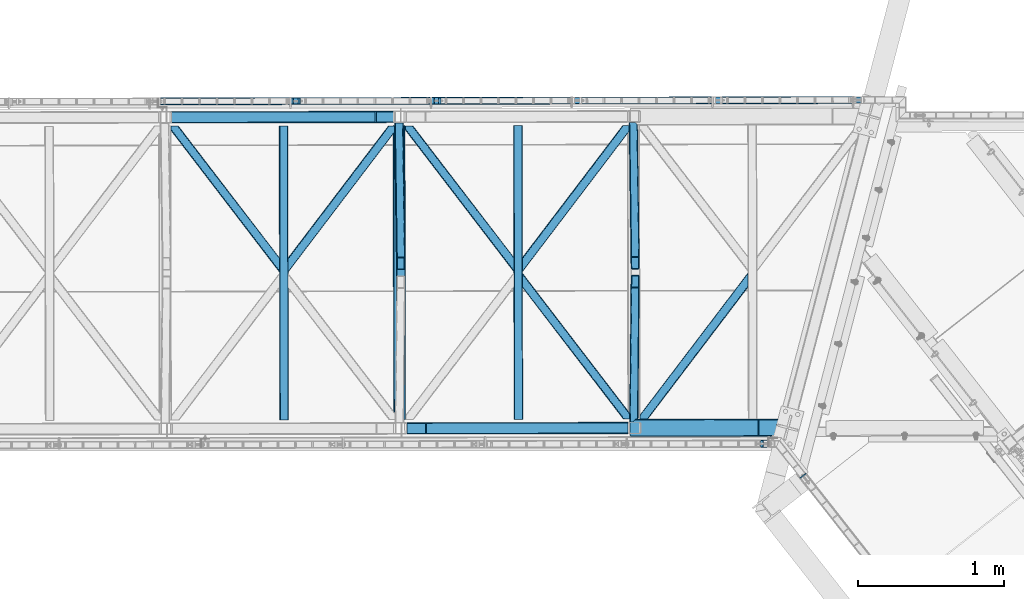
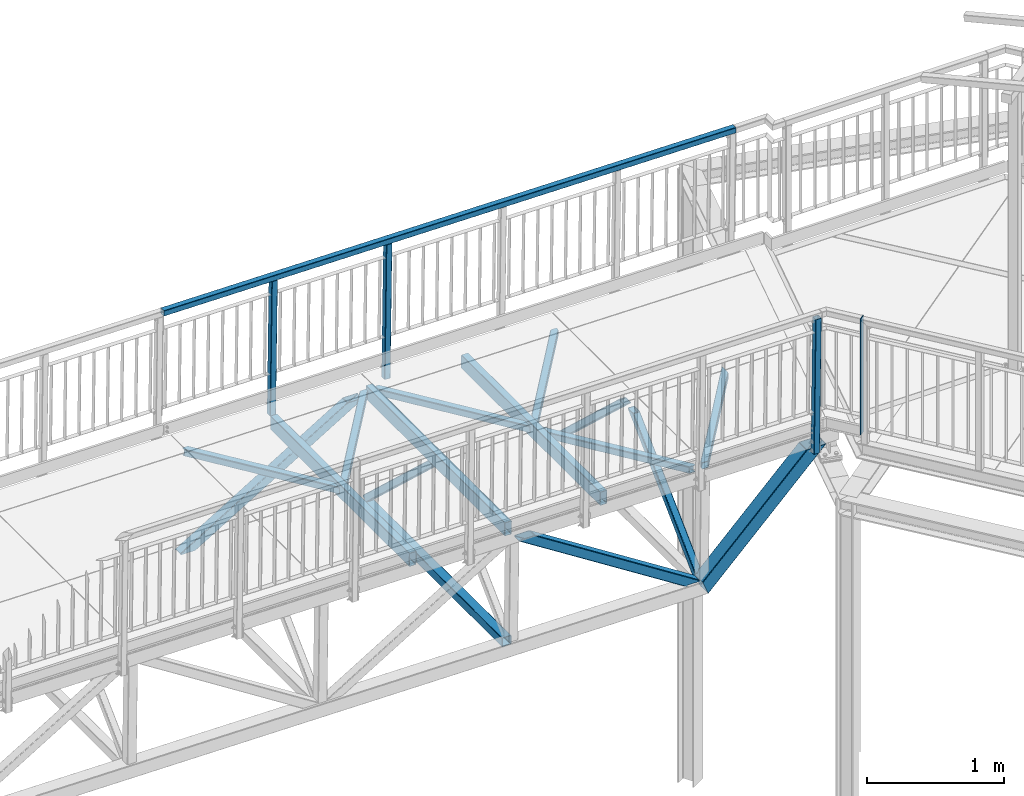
# One storey, part 61 of 169: 21 discrete accessories, 4 elements without a shape of their own.
"""IFC2X3 building model written with IfcOpenShell, lengths in millimetres."""

from ifc_helpers import new_model, si_unit, frame, origin_with_axes, origin_2d_with_axis, place, context, subcontext, project, spatial, polyline, rectangle, hollow_rectangle, outline, extrude, boolean, clip, halfspace, material, type_object, element, aggregate, save


model = new_model("IFC2X3")

# Units and contexts
model_context = context("Model", 3, precision=1e-05, world=origin_with_axes())
body_context = subcontext(model_context, "Body", "Model", "MODEL_VIEW")
ifc_project = project(units=[si_unit("LENGTHUNIT", "METRE", prefix="MILLI"), si_unit("AREAUNIT", "SQUARE_METRE"), si_unit("VOLUMEUNIT", "CUBIC_METRE"), si_unit("MASSUNIT", "GRAM", prefix="KILO"), si_unit("TIMEUNIT", "SECOND"), si_unit("PLANEANGLEUNIT", "RADIAN"), si_unit("SOLIDANGLEUNIT", "STERADIAN"), si_unit("THERMODYNAMICTEMPERATUREUNIT", "DEGREE_CELSIUS"), si_unit("LUMINOUSINTENSITYUNIT", "LUMEN")], contexts=[model_context])

# Site, building, storey
site_placement = place(None, origin_with_axes())
site = spatial("IfcSite", under=ifc_project, at=site_placement, Name="Undefined", CompositionType="ELEMENT")
building_placement = place(site_placement, origin_with_axes())
building = spatial("IfcBuilding", under=site, at=building_placement, Name="Undefined", CompositionType="ELEMENT")
storey_placement = place(building_placement, origin_with_axes())
storey = spatial("IfcBuildingStorey", under=building, at=storey_placement, Name="Undefined", CompositionType="ELEMENT", Elevation=0.0)

# Assembly, discrete accessory
assembly_1_placement = place(storey_placement, origin_with_axes())
assembly_1 = element("IfcElementAssembly", 1, at=assembly_1_placement, inside=storey, Name="Steel Assembly", AssemblyPlace="NOTDEFINED", PredefinedType="RIGID_FRAME")
ifc_material_1 = material(Name="STEEL/S235")
discrete_accessory_type_1 = type_object("IfcDiscreteAccessoryType", Name="BLACHA")
discrete_accessory_1_placement = place(assembly_1_placement, frame((18521.8600621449, -206.542607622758, 13868.4308895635), z_axis=(0.617242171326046, -0.786773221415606, 1.36000016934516e-07), x_axis=(0.786773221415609, 0.617242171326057, 0.0)))
discrete_accessory_1 = element("IfcDiscreteAccessory", 2, at=discrete_accessory_1_placement, type_object=discrete_accessory_type_1, material=ifc_material_1, Name="BLACHA", ObjectType="BL5*50", context=body_context, shape_type="SweptSolid", body=[
    extrude(outline(polyline([(0.0, 0.0), (50.0000000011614, 3.27418092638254e-11), (50.0000000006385, 1038.00000000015), (1.76047251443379e-07, 1038.00000000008), (0.0, 0.0)])), frame((6.80888809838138e-19, -2.87858853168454e-21, -2.49999999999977), z_axis=(0.0, 0.0, 1.0), x_axis=(1.0, 0.0, 0.0)), (0.0, 0.0, 1.0), 5.0),
])

assembly_2_placement = place(storey_placement, origin_with_axes())
assembly_2 = element("IfcElementAssembly", 3, at=assembly_2_placement, inside=storey, Name="Steel Assembly", AssemblyPlace="NOTDEFINED", PredefinedType="RIGID_FRAME")
ifc_material_2 = material(Name="STEEL/S355")
discrete_accessory_type_2 = type_object("IfcDiscreteAccessoryType", Name="BEAM")
discrete_accessory_2_placement = place(assembly_2_placement, frame((17391.8988226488, 137.447571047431, 13733.1483192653), z_axis=(0.796064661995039, -0.605127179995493, -0.0101069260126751), x_axis=(0.605078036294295, 0.796128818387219, -0.00771197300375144)))
discrete_accessory_2 = element("IfcDiscreteAccessory", 4, at=discrete_accessory_2_placement, type_object=discrete_accessory_type_2, material=ifc_material_2, Name="BEAM", ObjectType="K60/4", context=body_context, shape_type="CSG", body=[
    boolean("DIFFERENCE", boolean("DIFFERENCE", boolean("DIFFERENCE", extrude(hollow_rectangle(XDim=60.0, YDim=60.0, WallThickness=4.0, InnerFilletRadius=4.0, OuterFilletRadius=8.0, at=origin_2d_with_axis()), frame((1317.88045895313, 1.14307908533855e-15, -1.87685778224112e-12), z_axis=(-1.0, -3.46944695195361e-18, -1.38777878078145e-17), x_axis=(1.73472347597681e-18, -1.0, 0.0)), (0.0, 0.0, 1.0), 1317.88), extrude(rectangle(XDim=122.0, YDim=122.0, at=origin_2d_with_axis()), frame((1232.02617983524, 0.000108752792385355, 1614.64314702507), z_axis=(-0.606610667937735, 2.83045446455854e-10, -0.794999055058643), x_axis=(1.73472347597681e-18, -1.0, 0.0)), (0.0, 0.0, 1.0), 4062.0)), extrude(rectangle(XDim=62.0, YDim=122.0, at=origin_2d_with_axis()), frame((1638.49296551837, -1.93246750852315e-06, -1250.22451956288), z_axis=(-0.794999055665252, -4.2238609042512e-08, 0.606610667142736), x_axis=(0.606610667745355, -4.65838344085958e-10, 0.794999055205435)), (0.0, 0.0, 1.0), 4122.0)), halfspace(frame((513.848229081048, 1.26783561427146e-08, 582.760696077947), z_axis=(-0.606610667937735, 2.83045446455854e-10, -0.794999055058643), x_axis=(1.73472347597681e-18, -1.0, 0.0)), True)),
])

# Assembly, discrete accessories
assembly_3_placement = place(storey_placement, origin_with_axes())
assembly_3 = element("IfcElementAssembly", 5, at=assembly_3_placement, inside=storey, Name="Steel Assembly", AssemblyPlace="NOTDEFINED", PredefinedType="RIGID_FRAME")
discrete_accessory_3_placement = place(assembly_3_placement, frame((15782.031694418, 134.445301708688, 13753.6165103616), z_axis=(0.538381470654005, 0.00100403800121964, 0.842700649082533), x_axis=(0.842699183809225, 0.00157148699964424, -0.538382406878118)))
discrete_accessory_3 = element("IfcDiscreteAccessory", 6, at=discrete_accessory_3_placement, type_object=discrete_accessory_type_2, material=ifc_material_2, Name="BEAM", ObjectType="K80/4", context=body_context, shape_type="CSG", body=[
    boolean("DIFFERENCE", boolean("DIFFERENCE", boolean("DIFFERENCE", boolean("DIFFERENCE", boolean("DIFFERENCE", extrude(hollow_rectangle(XDim=80.0, YDim=80.0, WallThickness=4.0, InnerFilletRadius=4.0, OuterFilletRadius=8.0, at=origin_2d_with_axis()), frame((1895.28365458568, 2.8368149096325e-14, 0.0), z_axis=(-1.0, -3.46944695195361e-18, -1.38777878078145e-17), x_axis=(1.73472347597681e-18, -1.0, 0.0)), (0.0, 0.0, 1.0), 1895.28), extrude(rectangle(XDim=82.0, YDim=82.0, at=origin_2d_with_axis()), frame((1817.67638400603, -4.77197151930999e-07, 124.947708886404), z_axis=(0.527625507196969, -3.47074672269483e-10, -0.849477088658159), x_axis=(1.73472347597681e-18, -1.0, 0.0)), (0.0, 0.0, 1.0), 294.18)), extrude(rectangle(XDim=122.0, YDim=122.0, at=origin_2d_with_axis()), frame((2015.05956704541, -4.63874121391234e-06, 74.3951035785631), z_axis=(-0.849477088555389, 2.61340201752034e-10, -0.527625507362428), x_axis=(0.527625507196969, -3.47074672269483e-10, -0.849477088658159)), (0.0, 0.0, 1.0), 282.0)), extrude(rectangle(XDim=122.0, YDim=122.0, at=origin_2d_with_axis()), frame((1733.78268027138, -4.16628931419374e-06, 1076.88375380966), z_axis=(-0.849477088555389, 2.61340201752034e-10, -0.527625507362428), x_axis=(0.527625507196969, -3.47074672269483e-10, -0.849477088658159)), (0.0, 0.0, 1.0), 4082.0)), extrude(rectangle(XDim=82.0, YDim=82.0, at=origin_2d_with_axis()), frame((-1078.99478598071, 3.71883953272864e-07, 1737.1816513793), z_axis=(0.527625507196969, -3.47074672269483e-10, -0.849477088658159), x_axis=(1.73472347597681e-18, -1.0, 0.0)), (0.0, 0.0, 1.0), 4090.0)), halfspace(frame((1895.28365458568, 2.8368149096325e-14, 0.0), z_axis=(-0.849477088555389, 2.61340201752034e-10, -0.527625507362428), x_axis=(0.0, 1.0, 0.0)), True)),
])
discrete_accessory_4_placement = place(assembly_3_placement, frame((14155.4606473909, 2271.41576976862, 12774.1654243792), z_axis=(-0.516782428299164, -0.000963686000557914, 0.856116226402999), x_axis=(0.856114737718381, 0.00159654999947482, 0.516783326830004)))
discrete_accessory_4 = element("IfcDiscreteAccessory", 7, at=discrete_accessory_4_placement, type_object=discrete_accessory_type_2, material=ifc_material_2, Name="BEAM", ObjectType="K80/4", context=body_context, shape_type="CSG", body=[
    boolean("DIFFERENCE", boolean("DIFFERENCE", boolean("DIFFERENCE", boolean("DIFFERENCE", extrude(hollow_rectangle(XDim=80.0, YDim=80.0, WallThickness=4.0, InnerFilletRadius=4.0, OuterFilletRadius=8.0, at=origin_2d_with_axis()), frame((1895.28365458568, 2.8368149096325e-14, 0.0), z_axis=(-1.0, -3.46944695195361e-18, -1.38777878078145e-17), x_axis=(1.73472347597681e-18, -1.0, 0.0)), (0.0, 0.0, 1.0), 1895.28), extrude(rectangle(XDim=122.0, YDim=122.0, at=origin_2d_with_axis()), frame((3629.06675549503, -0.000113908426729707, -1076.88375412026), z_axis=(-0.849477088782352, -3.93457825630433e-11, 0.527625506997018), x_axis=(0.527625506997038, -2.13486959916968e-10, 0.849477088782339)), (0.0, 0.0, 1.0), 4082.0)), extrude(rectangle(XDim=82.0, YDim=82.0, at=origin_2d_with_axis()), frame((2982.71976667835, -3.53661638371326e-07, 1750.77218569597), z_axis=(-0.527625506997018, 2.00772915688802e-10, -0.849477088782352), x_axis=(1.73472347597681e-18, -1.0, 0.0)), (0.0, 0.0, 1.0), 4122.0)), extrude(rectangle(XDim=82.0, YDim=82.0, at=origin_2d_with_axis()), frame((1087.43622890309, -6.76905148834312e-07, 1750.7723728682), z_axis=(-0.527625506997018, 2.00772915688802e-10, -0.849477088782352), x_axis=(1.73472347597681e-18, -1.0, 0.0)), (0.0, 0.0, 1.0), 4122.0)), extrude(rectangle(XDim=122.0, YDim=122.0, at=origin_2d_with_axis()), frame((1733.61000419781, -2.8444828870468e-06, -1076.7762420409), z_axis=(-0.849477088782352, -3.93457825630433e-11, 0.527625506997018), x_axis=(-0.527625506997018, 2.00772915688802e-10, -0.849477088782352)), (0.0, 0.0, 1.0), 4081.59)),
])
aggregate(assembly_3, [discrete_accessory_3, discrete_accessory_4])

# Discrete accessory
discrete_accessory_5_placement = place(assembly_2_placement, frame((16584.9978418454, 1190.94465436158, 13743.3823690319), z_axis=(-0.793802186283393, -0.608092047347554, 0.0101069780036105), x_axis=(0.608043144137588, -0.793866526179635, -0.00771190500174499)))
discrete_accessory_5 = element("IfcDiscreteAccessory", 8, at=discrete_accessory_5_placement, type_object=discrete_accessory_type_2, material=ifc_material_2, Name="BEAM", ObjectType="K60/4", context=body_context, shape_type="CSG", body=[
    boolean("DIFFERENCE", boolean("DIFFERENCE", boolean("DIFFERENCE", extrude(hollow_rectangle(XDim=60.0, YDim=60.0, WallThickness=4.0, InnerFilletRadius=4.0, OuterFilletRadius=8.0, at=origin_2d_with_axis()), frame((1327.04560324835, -1.81783837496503e-12, 1.8913063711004e-12), z_axis=(-1.0, -3.46944695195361e-18, -1.38777878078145e-17), x_axis=(1.73472347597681e-18, -1.0, 0.0)), (0.0, 0.0, 1.0), 1317.77), extrude(rectangle(XDim=122.0, YDim=122.0, at=origin_2d_with_axis()), frame((2559.07206009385, 0.000108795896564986, -1614.6431455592), z_axis=(-0.606610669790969, 1.9093520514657e-10, 0.794999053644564), x_axis=(1.73472347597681e-18, -1.0, 0.0)), (0.0, 0.0, 1.0), 4062.0)), extrude(rectangle(XDim=62.0, YDim=122.0, at=origin_2d_with_axis()), frame((-311.447359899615, 7.92361939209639e-07, -1250.22452235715), z_axis=(0.794999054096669, -5.08714775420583e-10, 0.606610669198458), x_axis=(0.606610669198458, -3.85695368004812e-10, -0.79499905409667)), (0.0, 0.0, 1.0), 4122.0)), halfspace(frame((813.19737539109, -1.17615854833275e-08, 582.760697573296), z_axis=(0.606610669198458, -3.85695368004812e-10, -0.79499905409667), x_axis=(0.0, 1.0, 0.0)), True)),
])

discrete_accessory_6_placement = place(assembly_2_placement, frame((16584.9418963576, 1220.94460219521, 13743.3823677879), z_axis=(0.796064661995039, -0.605127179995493, -0.0101069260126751), x_axis=(0.605078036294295, 0.796128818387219, -0.00771197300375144)))
discrete_accessory_6 = element("IfcDiscreteAccessory", 9, at=discrete_accessory_6_placement, type_object=discrete_accessory_type_2, material=ifc_material_2, Name="BEAM", ObjectType="K60/4", context=body_context, shape_type="CSG", body=[
    boolean("DIFFERENCE", boolean("DIFFERENCE", boolean("DIFFERENCE", extrude(hollow_rectangle(XDim=60.0, YDim=60.0, WallThickness=4.0, InnerFilletRadius=4.0, OuterFilletRadius=8.0, at=origin_2d_with_axis()), frame((1327.04560324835, -1.81783837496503e-12, 1.8913063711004e-12), z_axis=(-1.0, -3.46944695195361e-18, -1.38777878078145e-17), x_axis=(1.73472347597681e-18, -1.0, 0.0)), (0.0, 0.0, 1.0), 1317.88), extrude(rectangle(XDim=122.0, YDim=122.0, at=origin_2d_with_axis()), frame((2559.07166903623, 0.000108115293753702, 1614.64301073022), z_axis=(-0.606610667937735, 2.83045446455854e-10, -0.794999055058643), x_axis=(0.0, 1.0, 0.0)), (0.0, 0.0, 1.0), 4062.0)), extrude(rectangle(XDim=62.0, YDim=122.0, at=origin_2d_with_axis()), frame((2965.5386644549, -2.59535426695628e-06, -1250.22459037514), z_axis=(-0.794999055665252, -4.2238609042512e-08, 0.606610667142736), x_axis=(0.606610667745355, -4.65838344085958e-10, 0.794999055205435)), (0.0, 0.0, 1.0), 4122.0)), halfspace(frame((-776.800733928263, -1.5232217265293e-08, 630.460639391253), z_axis=(0.606610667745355, -4.65838344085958e-10, 0.794999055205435), x_axis=(0.0, 1.0, 0.0)), True)),
])

discrete_accessory_7_placement = place(assembly_2_placement, frame((15778.0409160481, 2274.4416855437, 13753.6164179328), z_axis=(-0.793802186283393, -0.608092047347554, 0.0101069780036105), x_axis=(0.608043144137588, -0.793866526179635, -0.00771190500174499)))
discrete_accessory_7 = element("IfcDiscreteAccessory", 10, at=discrete_accessory_7_placement, type_object=discrete_accessory_type_2, material=ifc_material_2, Name="BEAM", ObjectType="K60/4", context=body_context, shape_type="CSG", body=[
    boolean("DIFFERENCE", boolean("DIFFERENCE", boolean("DIFFERENCE", extrude(hollow_rectangle(XDim=60.0, YDim=60.0, WallThickness=4.0, InnerFilletRadius=4.0, OuterFilletRadius=8.0, at=origin_2d_with_axis()), frame((1317.7688721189, 1.14298229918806e-15, -1.89206883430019e-12), z_axis=(-1.0, -3.46944695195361e-18, -1.38777878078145e-17), x_axis=(1.73472347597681e-18, -1.0, 0.0)), (0.0, 0.0, 1.0), 1317.77), extrude(rectangle(XDim=122.0, YDim=122.0, at=origin_2d_with_axis()), frame((1232.02636237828, 0.000109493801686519, -1614.64300936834), z_axis=(-0.606610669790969, 1.9093520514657e-10, 0.794999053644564), x_axis=(0.0, 1.0, 0.0)), (0.0, 0.0, 1.0), 4062.0)), extrude(rectangle(XDim=62.0, YDim=122.0, at=origin_2d_with_axis()), frame((-1638.49305022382, 1.48884142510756e-06, -1250.22459069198), z_axis=(0.794999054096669, -5.08714775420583e-10, 0.606610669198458), x_axis=(0.606610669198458, -3.85695368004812e-10, -0.79499905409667)), (0.0, 0.0, 1.0), 4122.0)), halfspace(frame((2103.84633729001, 1.13759597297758e-08, 630.460640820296), z_axis=(-0.606610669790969, 1.9093520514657e-10, 0.794999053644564), x_axis=(1.73472347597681e-18, -1.0, 0.0)), True)),
])

discrete_accessory_8_placement = place(assembly_2_placement, frame((16586.9652582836, 135.94648883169, 13743.382414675), z_axis=(0.012713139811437, 2.3750999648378e-05, 0.999919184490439), x_axis=(-0.0018648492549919, 0.999998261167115, -4.2996762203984e-08)))
discrete_accessory_8 = element("IfcDiscreteAccessory", 11, at=discrete_accessory_8_placement, type_object=discrete_accessory_type_2, material=ifc_material_2, Name="BEAM", ObjectType="RHS120*60*3", context=body_context, shape_type="Clipping", body=[
    clip(clip(extrude(hollow_rectangle(XDim=60.0, YDim=120.0, WallThickness=3.0, InnerFilletRadius=3.0, OuterFilletRadius=6.0, at=origin_2d_with_axis()), frame((2079.99988425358, -2.58114747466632e-16, -1.81898421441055e-12), z_axis=(-1.0, -3.46944695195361e-18, -1.38777878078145e-17), x_axis=(1.73472347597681e-18, -1.0, 0.0)), (0.0, 0.0, 1.0), 2020.0), halfspace(frame((2079.99984112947, 4.96547727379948e-08, 999.999997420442), z_axis=(-1.0, -3.46944695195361e-18, -1.38777878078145e-17), x_axis=(1.73472347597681e-18, -1.0, 0.0)), True)), halfspace(frame((59.9998947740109, 1.52502366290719e-08, 999.99999999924), z_axis=(1.0, 0.0, 0.0), x_axis=(0.0, 1.0, 0.0)), True)),
])

discrete_accessory_9_placement = place(assembly_2_placement, frame((14975.0747679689, 1217.94243775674, 13763.8505588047), z_axis=(0.796064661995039, -0.605127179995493, -0.0101069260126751), x_axis=(0.605078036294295, 0.796128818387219, -0.00771197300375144)))
discrete_accessory_9 = element("IfcDiscreteAccessory", 12, at=discrete_accessory_9_placement, type_object=discrete_accessory_type_2, material=ifc_material_2, Name="BEAM", ObjectType="K60/4", context=body_context, shape_type="CSG", body=[
    boolean("DIFFERENCE", boolean("DIFFERENCE", boolean("DIFFERENCE", extrude(hollow_rectangle(XDim=60.0, YDim=60.0, WallThickness=4.0, InnerFilletRadius=4.0, OuterFilletRadius=8.0, at=origin_2d_with_axis()), frame((1327.04560324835, -1.81783837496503e-12, 1.8913063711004e-12), z_axis=(-1.0, -3.46944695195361e-18, -1.38777878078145e-17), x_axis=(1.73472347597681e-18, -1.0, 0.0)), (0.0, 0.0, 1.0), 1317.88), extrude(rectangle(XDim=122.0, YDim=122.0, at=origin_2d_with_axis()), frame((2559.07166903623, 0.000108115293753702, 1614.64301073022), z_axis=(-0.606610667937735, 2.83045446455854e-10, -0.794999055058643), x_axis=(0.0, 1.0, 0.0)), (0.0, 0.0, 1.0), 4062.0)), extrude(rectangle(XDim=62.0, YDim=122.0, at=origin_2d_with_axis()), frame((2965.5386644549, -2.59535426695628e-06, -1250.22459037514), z_axis=(-0.794999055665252, -4.2238609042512e-08, 0.606610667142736), x_axis=(0.606610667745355, -4.65838344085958e-10, 0.794999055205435)), (0.0, 0.0, 1.0), 4122.0)), halfspace(frame((-776.800733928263, -1.5232217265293e-08, 630.460639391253), z_axis=(0.606610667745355, -4.65838344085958e-10, 0.794999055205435), x_axis=(0.0, 1.0, 0.0)), True)),
])

discrete_accessory_10_placement = place(assembly_2_placement, frame((14168.1737877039, 2271.43952106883, 13774.0846087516), z_axis=(-0.793802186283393, -0.608092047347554, 0.0101069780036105), x_axis=(0.608043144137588, -0.793866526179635, -0.00771190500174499)))
discrete_accessory_10 = element("IfcDiscreteAccessory", 13, at=discrete_accessory_10_placement, type_object=discrete_accessory_type_2, material=ifc_material_2, Name="BEAM", ObjectType="K60/4", context=body_context, shape_type="CSG", body=[
    boolean("DIFFERENCE", boolean("DIFFERENCE", boolean("DIFFERENCE", extrude(hollow_rectangle(XDim=60.0, YDim=60.0, WallThickness=4.0, InnerFilletRadius=4.0, OuterFilletRadius=8.0, at=origin_2d_with_axis()), frame((1317.7688721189, 1.14298229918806e-15, -1.89206883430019e-12), z_axis=(-1.0, -3.46944695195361e-18, -1.38777878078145e-17), x_axis=(1.73472347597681e-18, -1.0, 0.0)), (0.0, 0.0, 1.0), 1317.77), extrude(rectangle(XDim=122.0, YDim=122.0, at=origin_2d_with_axis()), frame((1232.02636237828, 0.000109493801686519, -1614.64300936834), z_axis=(-0.606610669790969, 1.9093520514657e-10, 0.794999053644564), x_axis=(0.0, 1.0, 0.0)), (0.0, 0.0, 1.0), 4062.0)), extrude(rectangle(XDim=62.0, YDim=122.0, at=origin_2d_with_axis()), frame((-1638.49305022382, 1.48884142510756e-06, -1250.22459069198), z_axis=(0.794999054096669, -5.08714775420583e-10, 0.606610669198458), x_axis=(0.606610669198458, -3.85695368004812e-10, -0.79499905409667)), (0.0, 0.0, 1.0), 4122.0)), halfspace(frame((2103.84633729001, 1.13759597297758e-08, 630.460640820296), z_axis=(-0.606610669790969, 1.9093520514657e-10, 0.794999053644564), x_axis=(1.73472347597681e-18, -1.0, 0.0)), True)),
])

discrete_accessory_11_placement = place(assembly_2_placement, frame((14977.0981298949, 132.944324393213, 13763.8506056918), z_axis=(0.012713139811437, 2.3750999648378e-05, 0.999919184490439), x_axis=(-0.0018648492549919, 0.999998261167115, -4.2996762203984e-08)))
discrete_accessory_11 = element("IfcDiscreteAccessory", 14, at=discrete_accessory_11_placement, type_object=discrete_accessory_type_2, material=ifc_material_2, Name="BEAM", ObjectType="RHS120*60*3", context=body_context, shape_type="Clipping", body=[
    clip(clip(extrude(hollow_rectangle(XDim=60.0, YDim=120.0, WallThickness=3.0, InnerFilletRadius=3.0, OuterFilletRadius=6.0, at=origin_2d_with_axis()), frame((2079.99988425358, -2.58114747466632e-16, -1.81898421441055e-12), z_axis=(-1.0, -3.46944695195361e-18, -1.38777878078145e-17), x_axis=(1.73472347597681e-18, -1.0, 0.0)), (0.0, 0.0, 1.0), 2020.0), halfspace(frame((2079.99984112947, 4.96547727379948e-08, 999.999997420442), z_axis=(-1.0, -3.46944695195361e-18, -1.38777878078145e-17), x_axis=(1.73472347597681e-18, -1.0, 0.0)), True)), halfspace(frame((59.9998947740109, 1.52502366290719e-08, 999.99999999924), z_axis=(1.0, 0.0, 0.0), x_axis=(0.0, 1.0, 0.0)), True)),
])

discrete_accessory_12_placement = place(assembly_2_placement, frame((17389.9034335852, 1207.44571053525, 13733.1482729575), z_axis=(-0.00801490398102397, -0.682820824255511, -0.730541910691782), x_axis=(-0.0100430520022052, 0.730583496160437, -0.682749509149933)))
discrete_accessory_12 = element("IfcDiscreteAccessory", 15, at=discrete_accessory_12_placement, type_object=discrete_accessory_type_2, material=ifc_material_2, Name="BEAM", ObjectType="K60/4", context=body_context, shape_type="CSG", body=[
    boolean("DIFFERENCE", boolean("DIFFERENCE", boolean("DIFFERENCE", boolean("DIFFERENCE", boolean("DIFFERENCE", extrude(hollow_rectangle(XDim=60.0, YDim=60.0, WallThickness=4.0, InnerFilletRadius=4.0, OuterFilletRadius=8.0, at=origin_2d_with_axis()), frame((1497.55212643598, 2.59783883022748e-15, -1.81898940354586e-12), z_axis=(-1.0, -3.46944695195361e-18, -1.38777878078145e-17), x_axis=(1.73472347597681e-18, -1.0, 0.0)), (0.0, 0.0, 1.0), 1442.71), extrude(rectangle(XDim=122.0, YDim=122.0, at=origin_2d_with_axis()), frame((1421.54196259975, 98.1849489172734, -46.016152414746), z_axis=(0.368486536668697, -0.841879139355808, 0.394280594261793), x_axis=(0.574838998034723, 0.539666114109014, 0.615077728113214)), (0.0, 0.0, 1.0), 233.3)), extrude(rectangle(XDim=82.0, YDim=82.0, at=origin_2d_with_axis()), frame((1385.37838026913, 1.55100547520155e-07, -84.7111853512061), z_axis=(0.682804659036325, -5.74226128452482e-10, 0.730600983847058), x_axis=(-0.730600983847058, -6.40306815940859e-10, 0.682804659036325)), (0.0, 0.0, 1.0), 231.89)), extrude(rectangle(XDim=122.0, YDim=122.0, at=origin_2d_with_axis()), frame((1464.54763395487, 130.000000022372, -7.79439320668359e-05), z_axis=(1.73472347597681e-18, -1.0, 0.0), x_axis=(0.682804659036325, -5.74226128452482e-10, 0.730600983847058)), (0.0, 0.0, 1.0), 260.0)), halfspace(frame((1464.54771169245, -0.0700466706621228, -8.81367668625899e-07), z_axis=(-0.92963308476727, -0.333702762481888, 0.156284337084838), x_axis=(5.10165591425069e-10, -0.424124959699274, -0.905603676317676)), True)), halfspace(frame((-689.632704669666, -3.43825377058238e-08, 726.640717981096), z_axis=(0.682804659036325, -5.74226128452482e-10, 0.730600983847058), x_axis=(0.0, 1.0, 0.0)), True)),
])

discrete_accessory_13_placement = place(assembly_2_placement, frame((17379.1856830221, 137.423819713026, 12733.2291346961), z_axis=(-0.0105615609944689, 0.682786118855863, -0.730541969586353), x_axis=(0.00731813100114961, 0.730615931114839, 0.682749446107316)))
discrete_accessory_13 = element("IfcDiscreteAccessory", 16, at=discrete_accessory_13_placement, type_object=discrete_accessory_type_2, material=ifc_material_2, Name="BEAM", ObjectType="K60/4", context=body_context, shape_type="CSG", body=[
    boolean("DIFFERENCE", boolean("DIFFERENCE", boolean("DIFFERENCE", boolean("DIFFERENCE", boolean("DIFFERENCE", extrude(hollow_rectangle(XDim=60.0, YDim=60.0, WallThickness=4.0, InnerFilletRadius=4.0, OuterFilletRadius=8.0, at=origin_2d_with_axis()), frame((1409.62306429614, 2.44530622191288e-15, -3.48147920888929e-12), z_axis=(-1.0, -3.46944695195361e-18, -1.38777878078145e-17), x_axis=(1.73472347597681e-18, -1.0, 0.0)), (0.0, 0.0, 1.0), 1442.57), extrude(rectangle(XDim=82.0, YDim=82.0, at=origin_2d_with_axis()), frame((79.1691855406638, -8.6550169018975e-08, -84.7111821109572), z_axis=(-0.682804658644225, 7.91412114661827e-10, 0.730600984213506), x_axis=(-0.730600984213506, -8.41296776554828e-11, -0.682804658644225)), (0.0, 0.0, 1.0), 231.89)), extrude(rectangle(XDim=122.0, YDim=122.0, at=origin_2d_with_axis()), frame((-4.81584395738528e-06, 129.999999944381, -0.00015441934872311), z_axis=(1.73472347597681e-18, -1.0, 0.0), x_axis=(-0.682804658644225, 7.91412114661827e-10, 0.730600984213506)), (0.0, 0.0, 1.0), 260.0)), extrude(rectangle(XDim=122.0, YDim=122.0, at=origin_2d_with_axis()), frame((53.3829714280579, 76.9394191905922, -57.1199329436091), z_axis=(-0.486450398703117, -0.701743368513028, 0.520501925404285), x_axis=(-0.479153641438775, 0.712429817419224, 0.512694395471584)), (0.0, 0.0, 1.0), 219.38)), halfspace(frame((2154.18041553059, 4.7799403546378e-08, 726.64071778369), z_axis=(-0.682804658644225, 7.91412114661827e-10, 0.730600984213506), x_axis=(1.73472347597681e-18, -1.0, 0.0)), True)), halfspace(frame((-7.66260236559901e-05, 7.46513251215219e-09, -7.1654363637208e-05), z_axis=(-0.730600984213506, -8.41296776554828e-11, -0.682804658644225), x_axis=(1.73472347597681e-18, -1.0, 0.0)), False)),
])

discrete_accessory_14_placement = place(assembly_2_placement, frame((15780.0363052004, 1204.4435461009, 13753.616463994), z_axis=(-0.00801490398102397, -0.682820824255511, -0.730541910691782), x_axis=(-0.0100430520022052, 0.730583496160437, -0.682749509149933)))
discrete_accessory_14 = element("IfcDiscreteAccessory", 17, at=discrete_accessory_14_placement, type_object=discrete_accessory_type_2, material=ifc_material_2, Name="BEAM", ObjectType="K60/4", context=body_context, shape_type="CSG", body=[
    boolean("DIFFERENCE", boolean("DIFFERENCE", boolean("DIFFERENCE", boolean("DIFFERENCE", extrude(hollow_rectangle(XDim=60.0, YDim=60.0, WallThickness=4.0, InnerFilletRadius=4.0, OuterFilletRadius=8.0, at=origin_2d_with_axis()), frame((1464.54771171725, -2.54058529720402e-15, 1.73769067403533e-12), z_axis=(-1.0, -3.46944695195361e-18, -1.38777878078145e-17), x_axis=(1.73472347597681e-18, -1.0, 0.0)), (0.0, 0.0, 1.0), 1409.7), extrude(rectangle(XDim=122.0, YDim=122.0, at=origin_2d_with_axis()), frame((1464.54763377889, 2029.99999998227, -7.71977473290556e-05), z_axis=(1.73472347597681e-18, -1.0, 0.0), x_axis=(0.682804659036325, -5.74226128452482e-10, 0.730600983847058)), (0.0, 0.0, 1.0), 4060.0)), extrude(rectangle(XDim=82.0, YDim=82.0, at=origin_2d_with_axis()), frame((2955.70431769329, 3.22820304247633e-06, -1393.60430822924), z_axis=(-0.730600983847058, -6.40306815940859e-10, 0.682804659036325), x_axis=(0.0, 1.0, 0.0)), (0.0, 0.0, 1.0), 4082.0)), extrude(rectangle(XDim=82.0, YDim=82.0, at=origin_2d_with_axis()), frame((70.9434023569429, 1.26172341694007e-06, -1491.15660917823), z_axis=(0.682804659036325, -5.74226128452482e-10, 0.730600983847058), x_axis=(-0.730600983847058, -6.40306815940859e-10, 0.682804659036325)), (0.0, 0.0, 1.0), 4082.0)), halfspace(frame((-689.632704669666, -3.43825377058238e-08, 726.640717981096), z_axis=(0.682804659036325, -5.74226128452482e-10, 0.730600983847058), x_axis=(0.0, 1.0, 0.0)), True)),
])

discrete_accessory_15_placement = place(assembly_2_placement, frame((17379.1158179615, 137.423584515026, 12733.2300230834), z_axis=(0.00186484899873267, -0.999998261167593, 4.28757666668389e-08), x_axis=(0.710742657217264, 0.00132546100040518, 0.703450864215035)))
solid = boolean("DIFFERENCE", extrude(rectangle(XDim=12.0, YDim=160.0, at=origin_2d_with_axis()), frame((1404.24491610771, -86.1081735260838, -7.61552662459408e-05), z_axis=(-0.700416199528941, -0.713734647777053, 9.70528087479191e-11), x_axis=(-0.18217154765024, 0.178772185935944, 0.96687849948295)), (0.0, 0.0, 1.0), 64.99), halfspace(frame((725.023211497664, 603.457010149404, -255.202782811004), z_axis=(-0.712429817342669, -0.701743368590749, 3.72380612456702e-10), x_axis=(-0.179086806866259, 0.181814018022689, 0.966887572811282)), True))
discrete_accessory_15 = element("IfcDiscreteAccessory", 18, at=discrete_accessory_15_placement, type_object=discrete_accessory_type_2, material=ifc_material_2, Name="BEAM", ObjectType="RHS120*4", context=body_context, shape_type="CSG", body=[
    boolean("DIFFERENCE", boolean("DIFFERENCE", boolean("DIFFERENCE", extrude(hollow_rectangle(XDim=120.0, YDim=120.0, WallThickness=4.0, InnerFilletRadius=4.0, OuterFilletRadius=8.0, at=origin_2d_with_axis()), frame((1441.29718972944, 9.89502768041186e-13, -1.41932767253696e-14), z_axis=(-1.0, -3.46944695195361e-18, -1.38777878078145e-17), x_axis=(1.73472347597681e-18, -1.0, 0.0)), (0.0, 0.0, 1.0), 1563.17), solid), halfspace(frame((1360.90139884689, -42.1046021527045, 999.999999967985), z_axis=(-0.712429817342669, -0.701743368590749, 3.72380612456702e-10), x_axis=(0.701743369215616, -0.712429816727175, 2.45974661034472e-10)), True)), halfspace(frame((25.1189755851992, 60.0000000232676, 4.0362758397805e-06), z_axis=(0.922427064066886, -0.386171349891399, 2.8371100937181e-10), x_axis=(-2.54700353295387e-10, 0.0, -1.0)), True)),
])

discrete_accessory_16_placement = place(assembly_2_placement, frame((15769.3185546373, 134.421655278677, 12753.6973257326), z_axis=(0.012713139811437, 2.3750999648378e-05, 0.999919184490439), x_axis=(-0.0018648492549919, 0.999998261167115, -4.2996762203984e-08)))
discrete_accessory_16 = element("IfcDiscreteAccessory", 19, at=discrete_accessory_16_placement, type_object=discrete_accessory_type_2, material=ifc_material_2, Name="BEAM", ObjectType="K80/4", context=body_context, shape_type="Clipping", body=[
    clip(clip(extrude(hollow_rectangle(XDim=80.0, YDim=80.0, WallThickness=4.0, InnerFilletRadius=4.0, OuterFilletRadius=8.0, at=origin_2d_with_axis()), frame((2079.99999999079, 5.70364343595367e-14, -1.83064995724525e-18), z_axis=(-1.0, -3.46944695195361e-18, -1.38777878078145e-17), x_axis=(1.73472347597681e-18, -1.0, 0.0)), (0.0, 0.0, 1.0), 2020.0), halfspace(frame((2079.99999986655, -1.53990526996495e-08, 999.999999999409), z_axis=(-1.0, -3.46944695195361e-18, -1.38777878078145e-17), x_axis=(1.73472347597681e-18, -1.0, 0.0)), True)), halfspace(frame((59.9998947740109, 1.52502366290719e-08, 999.99999999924), z_axis=(1.0, 0.0, 0.0), x_axis=(0.0, 1.0, 0.0)), True)),
])

discrete_accessory_17_placement = place(assembly_2_placement, frame((15782.0316942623, 134.445406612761, 13753.6165102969), z_axis=(0.012713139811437, 2.3750999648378e-05, 0.999919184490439), x_axis=(-0.0018648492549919, 0.999998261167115, -4.2996762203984e-08)))
discrete_accessory_17 = element("IfcDiscreteAccessory", 20, at=discrete_accessory_17_placement, type_object=discrete_accessory_type_2, material=ifc_material_2, Name="BEAM", ObjectType="RHS120*60*3", context=body_context, shape_type="Clipping", body=[
    clip(clip(extrude(hollow_rectangle(XDim=60.0, YDim=120.0, WallThickness=3.0, InnerFilletRadius=3.0, OuterFilletRadius=6.0, at=origin_2d_with_axis()), frame((2079.99988425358, -2.58114747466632e-16, -1.81898421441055e-12), z_axis=(-1.0, -3.46944695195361e-18, -1.38777878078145e-17), x_axis=(1.73472347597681e-18, -1.0, 0.0)), (0.0, 0.0, 1.0), 2020.0), halfspace(frame((2079.99984112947, 4.96547727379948e-08, 999.999997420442), z_axis=(-1.0, -3.46944695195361e-18, -1.38777878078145e-17), x_axis=(1.73472347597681e-18, -1.0, 0.0)), True)), halfspace(frame((59.9998947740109, 1.52502366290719e-08, 999.99999999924), z_axis=(1.0, 0.0, 0.0), x_axis=(0.0, 1.0, 0.0)), True)),
])

aggregate(assembly_2, [discrete_accessory_2, discrete_accessory_5, discrete_accessory_6, discrete_accessory_7, discrete_accessory_8, discrete_accessory_9, discrete_accessory_10, discrete_accessory_11, discrete_accessory_12, discrete_accessory_13, discrete_accessory_14, discrete_accessory_15, discrete_accessory_16, discrete_accessory_17])

# Assembly, discrete accessories
assembly_4_placement = place(storey_placement, origin_with_axes())
assembly_4 = element("IfcElementAssembly", 21, at=assembly_4_placement, inside=storey, Name="Steel Assembly", AssemblyPlace="NOTDEFINED", PredefinedType="RIGID_FRAME")
discrete_accessory_type_3 = type_object("IfcDiscreteAccessoryType", Name="PORĘCZ")
discrete_accessory_18_placement = place(assembly_4_placement, frame((18956.8495035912, 2390.36982562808, 14873.291623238), z_axis=(0.00186484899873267, -0.999998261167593, 4.28757666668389e-08), x_axis=(-0.999917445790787, -0.00186469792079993, 0.0127131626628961)))
discrete_accessory_18 = element("IfcDiscreteAccessory", 22, at=discrete_accessory_18_placement, type_object=discrete_accessory_type_3, material=ifc_material_1, Name="PORĘCZ", ObjectType="SHS50*3", context=body_context, shape_type="Clipping", body=[
    clip(extrude(hollow_rectangle(XDim=50.0, YDim=50.0, WallThickness=3.0, InnerFilletRadius=3.0, OuterFilletRadius=6.0, at=origin_2d_with_axis()), frame((4828.281595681, -8.37573343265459e-15, -2.36100084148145e-16), z_axis=(-1.0, -3.46944695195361e-18, -1.38777878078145e-17), x_axis=(1.73472347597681e-18, -1.0, 0.0)), (0.0, 0.0, 1.0), 4828.28), halfspace(frame((4828.28159593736, -1.32422428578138e-09, 1000.00000000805), z_axis=(-1.0, -3.46944695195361e-18, -1.38777878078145e-17), x_axis=(1.73472347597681e-18, -1.0, 0.0)), True)),
])
discrete_accessory_type_4 = type_object("IfcDiscreteAccessoryType", Name="STANCHION")
discrete_accessory_19_placement = place(assembly_4_placement, frame((15051.4084977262, 2383.08670920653, 13822.8573223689), z_axis=(-0.0018648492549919, 0.999998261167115, -4.2996762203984e-08), x_axis=(0.012713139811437, 2.3750999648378e-05, 0.999919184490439)))
discrete_accessory_19 = element("IfcDiscreteAccessory", 23, at=discrete_accessory_19_placement, type_object=discrete_accessory_type_4, material=ifc_material_1, Name="STANCHION", ObjectType="SHS50*3", context=body_context, shape_type="Clipping", body=[
    clip(clip(extrude(hollow_rectangle(XDim=50.0, YDim=50.0, WallThickness=3.0, InnerFilletRadius=3.0, OuterFilletRadius=6.0, at=origin_2d_with_axis()), frame((1074.99999999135, -5.68489533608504e-14, -9.13224357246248e-13), z_axis=(-1.0, -3.46944695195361e-18, -1.38777878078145e-17), x_axis=(1.73472347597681e-18, -1.0, 0.0)), (0.0, 0.0, 1.0), 1195.0), halfspace(frame((1074.99999999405, -25.000000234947, -7.63429852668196e-09), z_axis=(1.0, 0.0, 0.0), x_axis=(0.0, 0.0, 1.0)), False)), halfspace(frame((-120.000000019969, -1025.00000000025, -5.14306819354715e-10), z_axis=(1.0, 0.0, 0.0), x_axis=(0.0, 0.0, 1.0)), True)),
])
discrete_accessory_20_placement = place(assembly_4_placement, frame((16018.0231516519, 2384.88930242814, 13810.5675791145), z_axis=(-0.0018648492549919, 0.999998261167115, -4.2996762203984e-08), x_axis=(0.012713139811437, 2.3750999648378e-05, 0.999919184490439)))
discrete_accessory_20 = element("IfcDiscreteAccessory", 24, at=discrete_accessory_20_placement, type_object=discrete_accessory_type_4, material=ifc_material_1, Name="STANCHION", ObjectType="SHS50*3", context=body_context, shape_type="Clipping", body=[
    clip(clip(extrude(hollow_rectangle(XDim=50.0, YDim=50.0, WallThickness=3.0, InnerFilletRadius=3.0, OuterFilletRadius=6.0, at=origin_2d_with_axis()), frame((1074.99999999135, -5.68489533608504e-14, -9.13224357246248e-13), z_axis=(-1.0, -3.46944695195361e-18, -1.38777878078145e-17), x_axis=(1.73472347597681e-18, -1.0, 0.0)), (0.0, 0.0, 1.0), 1195.0), halfspace(frame((1074.99999999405, -25.000000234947, -7.63429852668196e-09), z_axis=(1.0, 0.0, 0.0), x_axis=(0.0, 0.0, 1.0)), False)), halfspace(frame((-120.000000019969, -1025.00000000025, -5.14306819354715e-10), z_axis=(1.0, 0.0, 0.0), x_axis=(0.0, 0.0, 1.0)), True)),
])
aggregate(assembly_4, [discrete_accessory_18, discrete_accessory_19, discrete_accessory_20])

# Discrete accessory
discrete_accessory_21_placement = place(assembly_1_placement, frame((18277.4844529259, 29.0987591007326, 13781.8963676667), z_axis=(0.00186484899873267, -0.999998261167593, 4.28757666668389e-08), x_axis=(0.012713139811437, 2.3750999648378e-05, 0.999919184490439)))
discrete_accessory_21 = element("IfcDiscreteAccessory", 25, at=discrete_accessory_21_placement, type_object=discrete_accessory_type_4, material=ifc_material_1, Name="STANCHION", ObjectType="SHS50*3", context=body_context, shape_type="Clipping", body=[
    clip(clip(extrude(hollow_rectangle(XDim=50.0, YDim=50.0, WallThickness=3.0, InnerFilletRadius=3.0, OuterFilletRadius=6.0, at=origin_2d_with_axis()), frame((1074.99999999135, -5.68489533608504e-14, -9.13224357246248e-13), z_axis=(-1.0, -3.46944695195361e-18, -1.38777878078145e-17), x_axis=(1.73472347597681e-18, -1.0, 0.0)), (0.0, 0.0, 1.0), 1195.0), halfspace(frame((1075.00000000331, 25.0000002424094, 2.62741739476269e-09), z_axis=(1.0, 0.0, 0.0), x_axis=(0.0, 0.0, 1.0)), False)), halfspace(frame((-120.000000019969, -1025.00000000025, -5.14306819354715e-10), z_axis=(1.0, 0.0, 0.0), x_axis=(0.0, 0.0, 1.0)), True)),
])

aggregate(assembly_1, [discrete_accessory_1, discrete_accessory_21])

save(model, "model.ifc")
